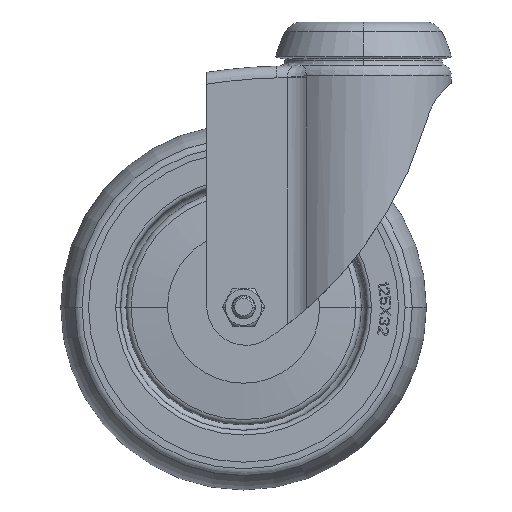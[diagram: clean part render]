
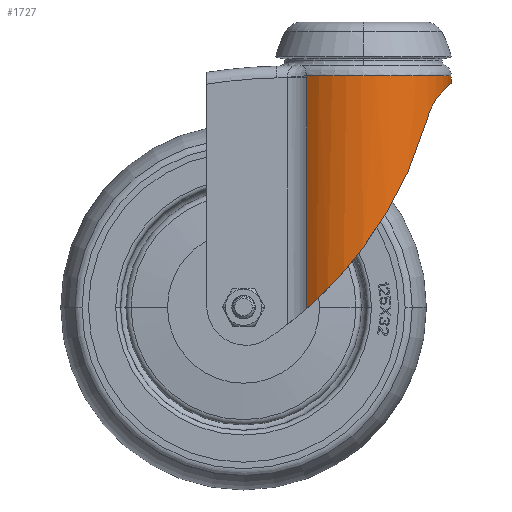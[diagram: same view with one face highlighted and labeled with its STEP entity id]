
A CAD part, left-side view. The second image highlights one B-rep face of the part: STEP entity #1727.
In plain terms, the highlighted cylindrical face has radius 30 mm (diameter 60 mm), a partial arc.
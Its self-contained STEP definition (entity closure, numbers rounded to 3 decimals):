
#296=CARTESIAN_POINT('',(-20.396,-22.,
-24.));
#297=CARTESIAN_POINT('',(-20.198,-22.184,
-23.361));
#298=CARTESIAN_POINT('',(-19.737,-22.601,
-22.124));
#299=CARTESIAN_POINT('',(-18.817,-23.377,
-20.367));
#300=CARTESIAN_POINT('',(-17.693,-24.243,
-18.791));
#301=CARTESIAN_POINT('',(-16.413,-25.129,
-17.442));
#302=CARTESIAN_POINT('',(-14.985,-26.009,
-16.285));
#303=CARTESIAN_POINT('',(-13.297,-26.919,
-15.237));
#304=CARTESIAN_POINT('',(-11.229,-27.855,
-14.286));
#305=CARTESIAN_POINT('',(-8.668,-28.773,
-13.461));
#306=CARTESIAN_POINT('',(-5.471,-29.566,
-12.822));
#307=CARTESIAN_POINT('',(-1.877,-30.016,
-12.488));
#308=CARTESIAN_POINT('',(1.806,-30.021,-12.484));
#309=CARTESIAN_POINT('',(5.412,-29.578,-12.813));
#310=CARTESIAN_POINT('',(8.631,-28.785,-13.451));
#311=CARTESIAN_POINT('',(11.211,-27.863,-14.279));
#312=CARTESIAN_POINT('',(13.292,-26.922,-15.234));
#313=CARTESIAN_POINT('',(14.987,-26.008,-16.286));
#314=CARTESIAN_POINT('',(16.417,-25.126,-17.445));
#315=CARTESIAN_POINT('',(17.695,-24.241,-18.793));
#316=CARTESIAN_POINT('',(18.817,-23.377,-20.367));
#317=CARTESIAN_POINT('',(19.737,-22.601,-22.123));
#318=CARTESIAN_POINT('',(20.198,-22.184,-23.361));
#319=CARTESIAN_POINT('',(20.396,-22.,-24.));
#321=CARTESIAN_POINT('',(-29.998,0.058,
-68.463));
#322=CARTESIAN_POINT('',(-29.998,-1.107,
-66.903));
#323=CARTESIAN_POINT('',(-29.866,-3.496,
-63.557));
#324=CARTESIAN_POINT('',(-29.273,-6.841,
-58.399));
#325=CARTESIAN_POINT('',(-28.327,-10.068,
-52.901));
#326=CARTESIAN_POINT('',(-27.022,-13.18,
-46.969));
#327=CARTESIAN_POINT('',(-25.298,-16.262,
-40.312));
#328=CARTESIAN_POINT('',(-23.079,-19.293,
-32.674));
#329=CARTESIAN_POINT('',(-21.325,-21.139,
-26.999));
#330=CARTESIAN_POINT('',(-20.396,-22.,
-24.));
#332=CARTESIAN_POINT('',(-29.998,0.058,
-68.463));
#333=CARTESIAN_POINT('',(-29.998,1.611,-70.541));
#334=CARTESIAN_POINT('',(-29.758,4.582,-74.286));
#335=CARTESIAN_POINT('',(-28.76,8.894,-79.2));
#336=CARTESIAN_POINT('',(-27.231,12.809,-83.28));
#337=CARTESIAN_POINT('',(-25.262,16.345,-86.696));
#338=CARTESIAN_POINT('',(-23.699,18.438,-88.589));
#339=CARTESIAN_POINT('',(-22.875,19.41,-89.444));
#341=DIRECTION('',(0.,0.,-1.));
#342=VECTOR('',#341,78.844);
#343=CARTESIAN_POINT('',(-22.875,19.41,-10.6));
#344=LINE('',#343,#342);
#345=CARTESIAN_POINT('',(-22.861,19.426,-9.869));
#346=CARTESIAN_POINT('',(-22.865,19.421,-9.991));
#347=CARTESIAN_POINT('',(-22.873,19.412,-10.234));
#348=CARTESIAN_POINT('',(-22.875,19.41,-10.478));
#349=CARTESIAN_POINT('',(-22.875,19.41,-10.6));
#351=CARTESIAN_POINT('',(0.,0.,-9.869));
#352=DIRECTION('',(0.,0.,1.));
#353=DIRECTION('',(-0.762,0.648,0.));
#354=AXIS2_PLACEMENT_3D('',#351,#352,#353);
#356=CARTESIAN_POINT('',(22.875,19.41,-10.6));
#357=CARTESIAN_POINT('',(22.875,19.41,-10.478));
#358=CARTESIAN_POINT('',(22.873,19.412,-10.234));
#359=CARTESIAN_POINT('',(22.865,19.421,-9.991));
#360=CARTESIAN_POINT('',(22.861,19.426,-9.869));
#362=DIRECTION('',(0.,0.,1.));
#363=VECTOR('',#362,78.844);
#364=CARTESIAN_POINT('',(22.875,19.41,-89.444));
#365=LINE('',#364,#363);
#366=CARTESIAN_POINT('',(22.875,19.41,-89.444));
#367=CARTESIAN_POINT('',(23.699,18.438,-88.589));
#368=CARTESIAN_POINT('',(25.262,16.345,-86.696));
#369=CARTESIAN_POINT('',(27.231,12.809,-83.28));
#370=CARTESIAN_POINT('',(28.76,8.894,-79.2));
#371=CARTESIAN_POINT('',(29.758,4.582,-74.286));
#372=CARTESIAN_POINT('',(29.998,1.611,-70.541));
#373=CARTESIAN_POINT('',(29.998,0.058,-68.463));
#375=CARTESIAN_POINT('',(20.396,-22.,-24.));
#376=CARTESIAN_POINT('',(21.325,-21.138,-27.));
#377=CARTESIAN_POINT('',(23.079,-19.292,-32.675));
#378=CARTESIAN_POINT('',(25.297,-16.263,-40.309));
#379=CARTESIAN_POINT('',(27.02,-13.183,-46.962));
#380=CARTESIAN_POINT('',(28.325,-10.073,-52.893));
#381=CARTESIAN_POINT('',(29.272,-6.845,-58.393));
#382=CARTESIAN_POINT('',(29.866,-3.497,-63.555));
#383=CARTESIAN_POINT('',(29.998,-1.107,-66.903));
#384=CARTESIAN_POINT('',(29.998,0.058,-68.463));
#396=CARTESIAN_POINT('',(-22.875,19.41,-89.444));
#556=CARTESIAN_POINT('',(22.875,19.41,-89.444));
#568=CARTESIAN_POINT('',(22.861,19.426,-9.869));
#1128=VERTEX_POINT('',#568);
#1131=VERTEX_POINT('',#356);
#1134=VERTEX_POINT('',#345);
#1135=VERTEX_POINT('',#349);
#1196=VERTEX_POINT('',#556);
#1197=VERTEX_POINT('',#396);
#1208=VERTEX_POINT('',#296);
#1209=VERTEX_POINT('',#319);
#1210=VERTEX_POINT('',#384);
#1215=VERTEX_POINT('',#321);
#1704=CARTESIAN_POINT('',(0.,0.,6.88));
#1705=DIRECTION('',(0.,0.,-1.));
#1706=DIRECTION('',(1.,0.,0.));
#1707=AXIS2_PLACEMENT_3D('',#1704,#1705,#1706);
#1708=CYLINDRICAL_SURFACE('',#1707,30.);
#1709=ORIENTED_EDGE('',*,*,#1695,.F.);
#1710=ORIENTED_EDGE('',*,*,#1574,.F.);
#1711=ORIENTED_EDGE('',*,*,#1488,.T.);
#1713=ORIENTED_EDGE('',*,*,#1712,.F.);
#1715=ORIENTED_EDGE('',*,*,#1714,.F.);
#1717=ORIENTED_EDGE('',*,*,#1716,.T.);
#1719=ORIENTED_EDGE('',*,*,#1718,.F.);
#1721=ORIENTED_EDGE('',*,*,#1720,.F.);
#1722=ORIENTED_EDGE('',*,*,#1500,.T.);
#1724=ORIENTED_EDGE('',*,*,#1723,.F.);
#1725=EDGE_LOOP('',(#1709,#1710,#1711,#1713,#1715,#1717,#1719,#1721,#1722,
#1724));
#1726=FACE_OUTER_BOUND('',#1725,.F.);
#1727=ADVANCED_FACE('',(#1726),#1708,.T.);
#320=B_SPLINE_CURVE_WITH_KNOTS('',3,(#296,#297,#298,#299,#300,#301,#302,#303,
#304,#305,#306,#307,#308,#309,#310,#311,#312,#313,#314,#315,#316,#317,#318,
#319),.UNSPECIFIED.,.F.,.F.,(4,1,1,1,1,1,1,1,1,1,1,1,1,1,1,1,1,1,1,1,1,4),(0.,
0.048,0.095,0.143,0.19,
0.238,0.286,0.333,0.381,
0.429,0.476,0.524,0.571,
0.619,0.667,0.714,0.762,
0.81,0.857,0.905,0.952,1.),
.UNSPECIFIED.);
#331=B_SPLINE_CURVE_WITH_KNOTS('',3,(#321,#322,#323,#324,#325,#326,#327,#328,
#329,#330),.UNSPECIFIED.,.F.,.F.,(4,1,1,1,1,1,1,4),(0.,0.143,
0.286,0.429,0.571,0.714,
0.857,1.),.UNSPECIFIED.);
#340=B_SPLINE_CURVE_WITH_KNOTS('',3,(#332,#333,#334,#335,#336,#337,#338,#339),
.UNSPECIFIED.,.F.,.F.,(4,1,1,1,1,4),(0.,0.2,0.4,0.6,0.8,1.),
.UNSPECIFIED.);
#350=B_SPLINE_CURVE_WITH_KNOTS('',3,(#345,#346,#347,#348,#349),.UNSPECIFIED.,
.F.,.F.,(4,1,4),(0.,0.5,1.),.UNSPECIFIED.);
#355=CIRCLE('',#354,30.);
#361=B_SPLINE_CURVE_WITH_KNOTS('',3,(#356,#357,#358,#359,#360),.UNSPECIFIED.,
.F.,.F.,(4,1,4),(0.,0.5,1.),.UNSPECIFIED.);
#374=B_SPLINE_CURVE_WITH_KNOTS('',3,(#366,#367,#368,#369,#370,#371,#372,#373),
.UNSPECIFIED.,.F.,.F.,(4,1,1,1,1,4),(0.,0.2,0.4,0.6,0.8,1.),
.UNSPECIFIED.);
#385=B_SPLINE_CURVE_WITH_KNOTS('',3,(#375,#376,#377,#378,#379,#380,#381,#382,
#383,#384),.UNSPECIFIED.,.F.,.F.,(4,1,1,1,1,1,1,4),(0.,0.143,
0.286,0.429,0.571,0.714,
0.857,1.),.UNSPECIFIED.);
#1488=EDGE_CURVE('',#1215,#1197,#340,.T.);
#1500=EDGE_CURVE('',#1196,#1210,#374,.T.);
#1574=EDGE_CURVE('',#1215,#1208,#331,.T.);
#1695=EDGE_CURVE('',#1208,#1209,#320,.T.);
#1712=EDGE_CURVE('',#1135,#1197,#344,.T.);
#1714=EDGE_CURVE('',#1134,#1135,#350,.T.);
#1716=EDGE_CURVE('',#1134,#1128,#355,.T.);
#1718=EDGE_CURVE('',#1131,#1128,#361,.T.);
#1720=EDGE_CURVE('',#1196,#1131,#365,.T.);
#1723=EDGE_CURVE('',#1209,#1210,#385,.T.);
